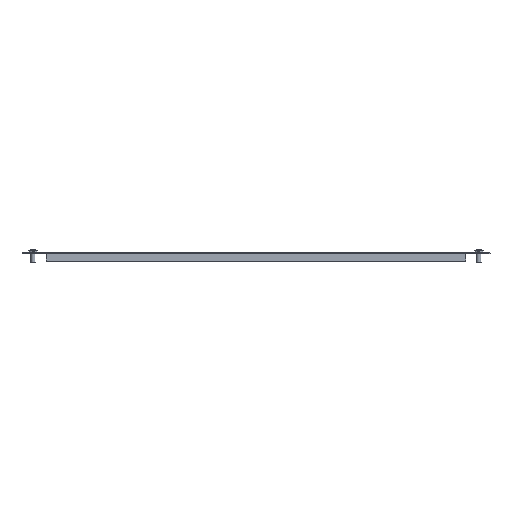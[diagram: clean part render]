
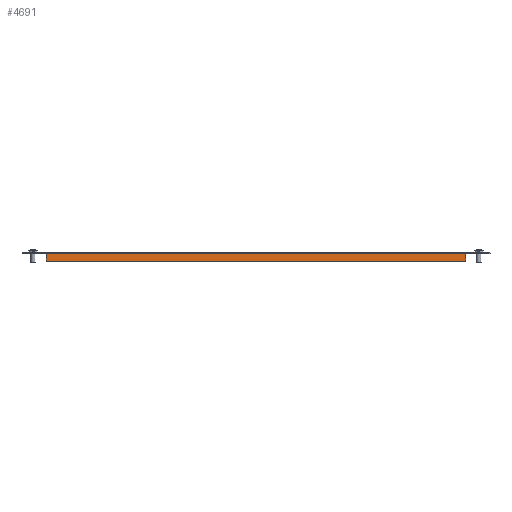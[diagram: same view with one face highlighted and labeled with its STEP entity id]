
A CAD part, front view. The second image highlights one B-rep face of the part: STEP entity #4691.
In plain terms, the highlighted planar face has unit normal (0, -1, 0).
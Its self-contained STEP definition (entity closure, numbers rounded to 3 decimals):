
#48 = LINE ( 'NONE', #581, #6022 ) ;
#149 = CARTESIAN_POINT ( 'NONE',  ( 0., -835., 0. ) ) ;
#205 = EDGE_CURVE ( 'NONE', #5222, #5355, #3954, .T. ) ;
#222 = LINE ( 'NONE', #4421, #4535 ) ;
#552 = VECTOR ( 'NONE', #6661, 1000. ) ;
#581 = CARTESIAN_POINT ( 'NONE',  ( -235.5, -835., -1.8 ) ) ;
#736 = DIRECTION ( 'NONE',  ( -1., 0., 0. ) ) ;
#814 = DIRECTION ( 'NONE',  ( 0., -1., 0. ) ) ;
#1023 = CARTESIAN_POINT ( 'NONE',  ( 235.5, -835., -10. ) ) ;
#1176 = CARTESIAN_POINT ( 'NONE',  ( -235.5, -835., -10. ) ) ;
#1264 = ORIENTED_EDGE ( 'NONE', *, *, #2262, .T. ) ;
#1582 = CARTESIAN_POINT ( 'NONE',  ( -235.5, -835., -2.4 ) ) ;
#2015 = LINE ( 'NONE', #6229, #2628 ) ;
#2262 = EDGE_CURVE ( 'NONE', #2717, #5222, #2015, .T. ) ;
#2287 = VECTOR ( 'NONE', #736, 1000. ) ;
#2301 = ORIENTED_EDGE ( 'NONE', *, *, #205, .T. ) ;
#2400 = VECTOR ( 'NONE', #4438, 1000. ) ;
#2422 = EDGE_CURVE ( 'NONE', #4537, #5429, #4368, .T. ) ;
#2570 = EDGE_CURVE ( 'NONE', #2717, #4537, #3507, .T. ) ;
#2598 = DIRECTION ( 'NONE',  ( 0., 0., 1. ) ) ;
#2628 = VECTOR ( 'NONE', #2598, 1000. ) ;
#2717 = VERTEX_POINT ( 'NONE', #5821 ) ;
#2810 = EDGE_CURVE ( 'NONE', #5429, #3535, #48, .T. ) ;
#2858 = CARTESIAN_POINT ( 'NONE',  ( 235.5, -835., 0. ) ) ;
#2916 = DIRECTION ( 'NONE',  ( 1., 0., 0. ) ) ;
#3263 = CARTESIAN_POINT ( 'NONE',  ( -235.5, -835., 0. ) ) ;
#3385 = ORIENTED_EDGE ( 'NONE', *, *, #2570, .F. ) ;
#3431 = PLANE ( 'NONE',  #5709 ) ;
#3507 = LINE ( 'NONE', #4500, #552 ) ;
#3535 = VERTEX_POINT ( 'NONE', #1582 ) ;
#3679 = ORIENTED_EDGE ( 'NONE', *, *, #2422, .F. ) ;
#3791 = CARTESIAN_POINT ( 'NONE',  ( -235.5, -835., -10. ) ) ;
#3954 = LINE ( 'NONE', #6051, #2287 ) ;
#4354 = DIRECTION ( 'NONE',  ( 0., 0., 1. ) ) ;
#4368 = LINE ( 'NONE', #3791, #2400 ) ;
#4388 = DIRECTION ( 'NONE',  ( 0., 0., 1. ) ) ;
#4421 = CARTESIAN_POINT ( 'NONE',  ( -235.5, -835., 0. ) ) ;
#4438 = DIRECTION ( 'NONE',  ( -1., 0., 0. ) ) ;
#4500 = CARTESIAN_POINT ( 'NONE',  ( 235.5, -835., -10. ) ) ;
#4535 = VECTOR ( 'NONE', #4388, 1000. ) ;
#4537 = VERTEX_POINT ( 'NONE', #1023 ) ;
#4691 = ADVANCED_FACE ( 'NONE', ( #6019 ), #3431, .T. ) ;
#5197 = EDGE_LOOP ( 'NONE', ( #3385, #1264, #2301, #5214, #5402, #3679 ) ) ;
#5214 = ORIENTED_EDGE ( 'NONE', *, *, #6669, .F. ) ;
#5222 = VERTEX_POINT ( 'NONE', #2858 ) ;
#5355 = VERTEX_POINT ( 'NONE', #3263 ) ;
#5402 = ORIENTED_EDGE ( 'NONE', *, *, #2810, .F. ) ;
#5429 = VERTEX_POINT ( 'NONE', #1176 ) ;
#5709 = AXIS2_PLACEMENT_3D ( 'NONE', #149, #814, #2916 ) ;
#5821 = CARTESIAN_POINT ( 'NONE',  ( 235.5, -835., -2.4 ) ) ;
#6019 = FACE_OUTER_BOUND ( 'NONE', #5197, .T. ) ;
#6022 = VECTOR ( 'NONE', #4354, 1000. ) ;
#6051 = CARTESIAN_POINT ( 'NONE',  ( 0., -835., 0. ) ) ;
#6229 = CARTESIAN_POINT ( 'NONE',  ( 235.5, -835., -2.4 ) ) ;
#6661 = DIRECTION ( 'NONE',  ( 0., 0., -1. ) ) ;
#6669 = EDGE_CURVE ( 'NONE', #3535, #5355, #222, .T. ) ;
